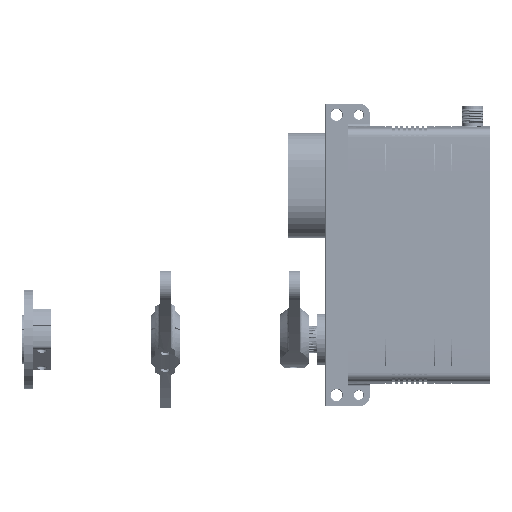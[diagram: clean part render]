
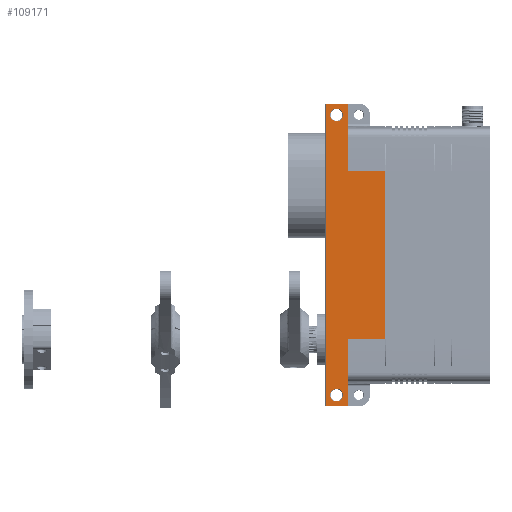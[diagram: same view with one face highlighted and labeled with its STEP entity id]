
A CAD part, left-side view. The second image highlights one B-rep face of the part: STEP entity #109171.
In plain terms, the highlighted planar face has unit normal (-1, 0, 0).
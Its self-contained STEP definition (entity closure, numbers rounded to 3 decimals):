
#3691 = ORIENTED_EDGE ( 'NONE', *, *, #52375, .T. ) ;
#3869 = ORIENTED_EDGE ( 'NONE', *, *, #16107, .T. ) ;
#6834 = VECTOR ( 'NONE', #37596, 1000. ) ;
#8316 = EDGE_CURVE ( 'NONE', #54089, #29212, #47527, .T. ) ;
#10661 = DIRECTION ( 'NONE',  ( 0., -1., 0. ) ) ;
#11540 = VECTOR ( 'NONE', #83491, 1000. ) ;
#13599 = VECTOR ( 'NONE', #117529, 1000. ) ;
#14016 = EDGE_LOOP ( 'NONE', ( #59719 ) ) ;
#14386 = DIRECTION ( 'NONE',  ( 0., 0., 1. ) ) ;
#16107 = EDGE_CURVE ( 'NONE', #42949, #113282, #117290, .T. ) ;
#29212 = VERTEX_POINT ( 'NONE', #98669 ) ;
#30772 = CARTESIAN_POINT ( 'NONE',  ( -18., 16.6, 0. ) ) ;
#31272 = CARTESIAN_POINT ( 'NONE',  ( -18., 21.6, 98.15 ) ) ;
#34326 = CARTESIAN_POINT ( 'NONE',  ( -18., 26.6, 105.8 ) ) ;
#34557 = CARTESIAN_POINT ( 'NONE',  ( -18., 0., 0. ) ) ;
#34607 = DIRECTION ( 'NONE',  ( 0., -1., 0. ) ) ;
#35827 = ORIENTED_EDGE ( 'NONE', *, *, #37973, .T. ) ;
#36906 = LINE ( 'NONE', #141418, #45673 ) ;
#37596 = DIRECTION ( 'NONE',  ( 0., -1., 0. ) ) ;
#37973 = EDGE_CURVE ( 'NONE', #79102, #77691, #82944, .T. ) ;
#38404 = DIRECTION ( 'NONE',  ( 0., 0., -1. ) ) ;
#41351 = CARTESIAN_POINT ( 'NONE',  ( -18., 16.6, 76. ) ) ;
#42949 = VERTEX_POINT ( 'NONE', #143768 ) ;
#44521 = CARTESIAN_POINT ( 'NONE',  ( -18., 26.4, -29.8 ) ) ;
#45266 = ORIENTED_EDGE ( 'NONE', *, *, #119153, .T. ) ;
#45673 = VECTOR ( 'NONE', #34607, 1000. ) ;
#47527 = LINE ( 'NONE', #69807, #59312 ) ;
#51658 = VECTOR ( 'NONE', #14386, 1000. ) ;
#51764 = AXIS2_PLACEMENT_3D ( 'NONE', #126183, #90857, #56321 ) ;
#52375 = EDGE_CURVE ( 'NONE', #97991, #66495, #36906, .T. ) ;
#52726 = AXIS2_PLACEMENT_3D ( 'NONE', #142537, #72589, #130255 ) ;
#54089 = VERTEX_POINT ( 'NONE', #41351 ) ;
#55563 = FACE_BOUND ( 'NONE', #148693, .T. ) ;
#56321 = DIRECTION ( 'NONE',  ( 0., 0., -1. ) ) ;
#58414 = LINE ( 'NONE', #34557, #13599 ) ;
#59312 = VECTOR ( 'NONE', #10661, 1000. ) ;
#59717 = EDGE_CURVE ( 'NONE', #113282, #79102, #60471, .T. ) ;
#59719 = ORIENTED_EDGE ( 'NONE', *, *, #143177, .T. ) ;
#59740 = LINE ( 'NONE', #121115, #51658 ) ;
#60471 = LINE ( 'NONE', #70459, #11540 ) ;
#60845 = EDGE_LOOP ( 'NONE', ( #117700, #3869, #61434, #35827, #69287, #3691, #45266, #113068 ) ) ;
#61434 = ORIENTED_EDGE ( 'NONE', *, *, #59717, .T. ) ;
#66495 = VERTEX_POINT ( 'NONE', #141687 ) ;
#69287 = ORIENTED_EDGE ( 'NONE', *, *, #108457, .T. ) ;
#69713 = EDGE_CURVE ( 'NONE', #54089, #42949, #99282, .T. ) ;
#69807 = CARTESIAN_POINT ( 'NONE',  ( -18., 26.6, 76. ) ) ;
#70459 = CARTESIAN_POINT ( 'NONE',  ( -18., 26.4, 0. ) ) ;
#72589 = DIRECTION ( 'NONE',  ( 1., 0., 0. ) ) ;
#72718 = CIRCLE ( 'NONE', #138834, 2.85 ) ;
#73261 = VERTEX_POINT ( 'NONE', #74025 ) ;
#74025 = CARTESIAN_POINT ( 'NONE',  ( -18., 21.6, -27.85 ) ) ;
#74541 = CARTESIAN_POINT ( 'NONE',  ( -18., 21.6, -25. ) ) ;
#75233 = CARTESIAN_POINT ( 'NONE',  ( -18., 26.4, 105.8 ) ) ;
#76683 = VERTEX_POINT ( 'NONE', #31272 ) ;
#77691 = VERTEX_POINT ( 'NONE', #130555 ) ;
#79102 = VERTEX_POINT ( 'NONE', #44521 ) ;
#81221 = DIRECTION ( 'NONE',  ( 0., 1., 0. ) ) ;
#82944 = LINE ( 'NONE', #132150, #6834 ) ;
#83491 = DIRECTION ( 'NONE',  ( 0., 0., -1. ) ) ;
#85536 = DIRECTION ( 'NONE',  ( 0., 0., 1. ) ) ;
#90857 = DIRECTION ( 'NONE',  ( 1., 0., 0. ) ) ;
#97573 = ORIENTED_EDGE ( 'NONE', *, *, #120747, .T. ) ;
#97991 = VERTEX_POINT ( 'NONE', #30772 ) ;
#98296 = DIRECTION ( 'NONE',  ( 1., 0., 0. ) ) ;
#98669 = CARTESIAN_POINT ( 'NONE',  ( -18., 0., 76. ) ) ;
#99282 = LINE ( 'NONE', #133193, #118654 ) ;
#102368 = FACE_OUTER_BOUND ( 'NONE', #60845, .T. ) ;
#104721 = VECTOR ( 'NONE', #81221, 1000. ) ;
#108457 = EDGE_CURVE ( 'NONE', #77691, #97991, #59740, .T. ) ;
#109171 = ADVANCED_FACE ( 'NONE', ( #113862, #55563, #102368 ), #150783, .F. ) ;
#113068 = ORIENTED_EDGE ( 'NONE', *, *, #8316, .F. ) ;
#113282 = VERTEX_POINT ( 'NONE', #75233 ) ;
#113862 = FACE_BOUND ( 'NONE', #14016, .T. ) ;
#117290 = LINE ( 'NONE', #34326, #104721 ) ;
#117529 = DIRECTION ( 'NONE',  ( 0., 0., 1. ) ) ;
#117700 = ORIENTED_EDGE ( 'NONE', *, *, #69713, .T. ) ;
#118654 = VECTOR ( 'NONE', #85536, 1000. ) ;
#119153 = EDGE_CURVE ( 'NONE', #66495, #29212, #58414, .T. ) ;
#120747 = EDGE_CURVE ( 'NONE', #73261, #73261, #72718, .T. ) ;
#121115 = CARTESIAN_POINT ( 'NONE',  ( -18., 16.6, 0. ) ) ;
#126183 = CARTESIAN_POINT ( 'NONE',  ( -18., 26.6, 0. ) ) ;
#130255 = DIRECTION ( 'NONE',  ( 0., 0., -1. ) ) ;
#130555 = CARTESIAN_POINT ( 'NONE',  ( -18., 16.6, -29.8 ) ) ;
#132150 = CARTESIAN_POINT ( 'NONE',  ( -18., 16.6, -29.8 ) ) ;
#133193 = CARTESIAN_POINT ( 'NONE',  ( -18., 16.6, 76. ) ) ;
#138834 = AXIS2_PLACEMENT_3D ( 'NONE', #74541, #98296, #38404 ) ;
#141418 = CARTESIAN_POINT ( 'NONE',  ( -18., 26.6, 0. ) ) ;
#141687 = CARTESIAN_POINT ( 'NONE',  ( -18., 0., 0. ) ) ;
#142537 = CARTESIAN_POINT ( 'NONE',  ( -18., 21.6, 101. ) ) ;
#143177 = EDGE_CURVE ( 'NONE', #76683, #76683, #146257, .T. ) ;
#143768 = CARTESIAN_POINT ( 'NONE',  ( -18., 16.6, 105.8 ) ) ;
#146257 = CIRCLE ( 'NONE', #52726, 2.85 ) ;
#148693 = EDGE_LOOP ( 'NONE', ( #97573 ) ) ;
#150783 = PLANE ( 'NONE',  #51764 ) ;
